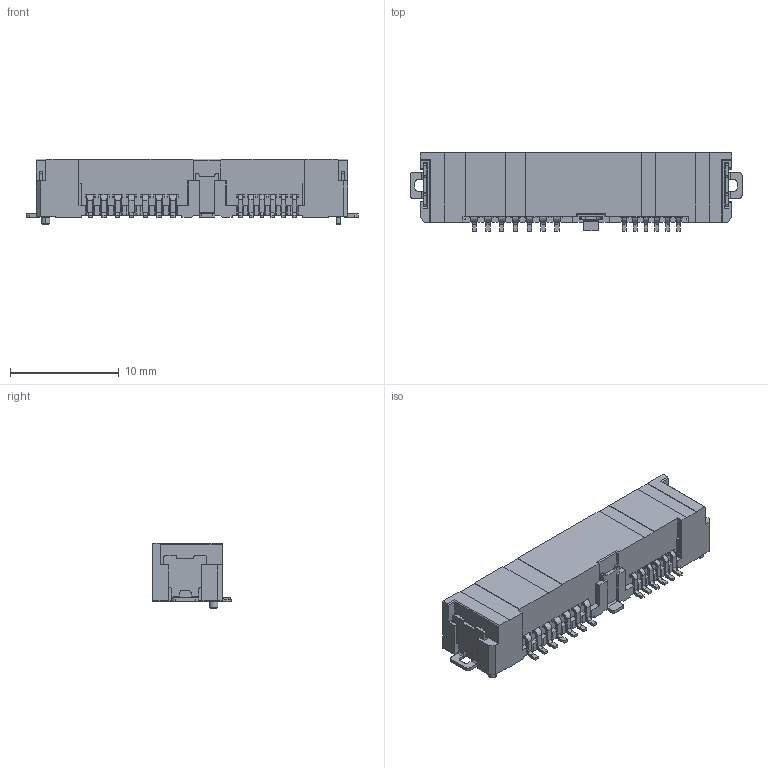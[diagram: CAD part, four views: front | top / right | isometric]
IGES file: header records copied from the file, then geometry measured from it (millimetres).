
Start section: START RECORD GO HERE.
Global section: file name: 10_5650_013_001_xxx_+.igs; native system: IBM CATIA IGES - CATIA Version 5 Release 14 ; preprocessor: CATIA Version 5 Release 14 ; author: user; organization: CATIA01; date: 20071025.112737; units: millimetre
Bounding box: 30.6 x 7.24 x 6.05 mm (x, y, z)
Surface area: 1165.7 mm2 (no closed solid volume)
Topology: 0 solids, 0 shells, 752 faces, 4368 edges, 4368 vertices
Faces by surface type: plane 595, revolution 157
